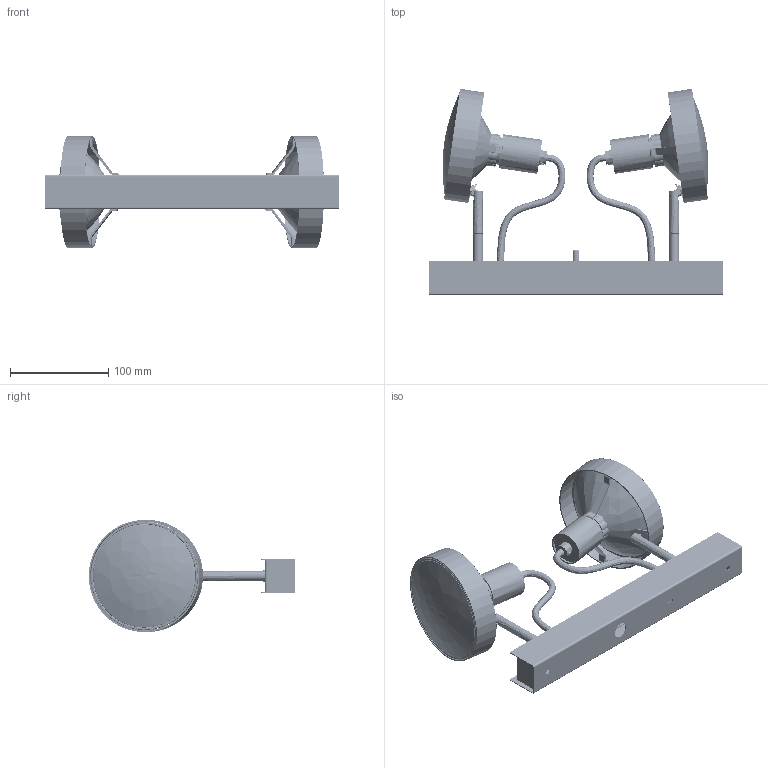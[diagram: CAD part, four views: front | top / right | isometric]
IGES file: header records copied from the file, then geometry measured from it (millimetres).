
Start section: SolidWorks IGES file using analytic representation for surfaces
Global section: file name: C:\Users\Asia\Desktop\IGS CROSS BASIC\300 cross igs.IGS; native system: SolidWorks 2016; preprocessor: SolidWorks 2016; author: Asia; date: 161021.085758; units: millimetre
Bounding box: 300 x 210.37 x 114.18 mm (x, y, z)
Surface area: 320265.5 mm2 (no closed solid volume)
Topology: 0 solids, 0 shells, 2283 faces, 29417 edges, 29323 vertices
Faces by surface type: bspline 1322, revolution 961
